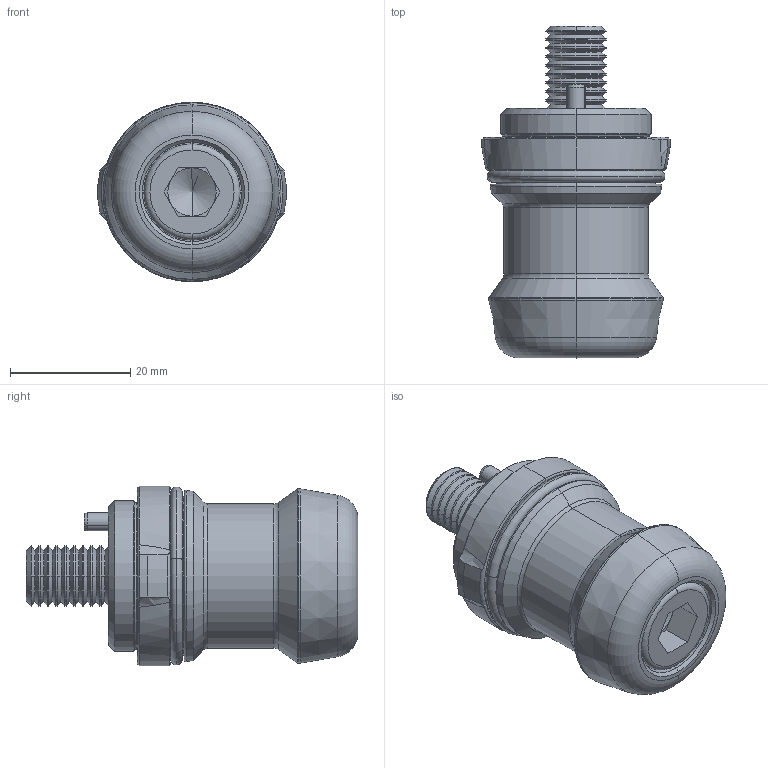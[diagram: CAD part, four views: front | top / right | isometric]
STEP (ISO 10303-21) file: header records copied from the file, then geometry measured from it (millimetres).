
FILE_DESCRIPTION (( 'STEP AP214' ), '1' );
FILE_NAME ('DXJT-20S.STEP', '2021-09-25T01:23:04', ( '' ), ( '' ), 'SwSTEP 2.0', 'SolidWorks 2018', '' );
FILE_SCHEMA (( 'AUTOMOTIVE_DESIGN' ));
Length unit declared in the file: millimetre
Products named in the file (5): socket head cap screw_din_DIN 912 M10 x 45 --- 32S; 12X2-NBR70-窪伎; parallel pin hardened_din_DIN EN 28734 - 3 x 10 - A - St; 隅砃嶺隊; DXJT-20S
Assembly tree (4 placements, depth 2):
  DXJT-20S
    隅砃嶺隊
    12X2-NBR70-窪伎
    parallel pin hardened_din_DIN EN 28734 - 3 x 10 - A - St
    socket head cap screw_din_DIN 912 M10 x 45 --- 32S
Bounding box: 31.31 x 55.2 x 29.9 mm (x, y, z)
Volume: 22486.7 mm3; surface area: 9970.9 mm2
Topology: 4 solids, 4 shells, 415 faces, 1055 edges, 661 vertices
Faces by surface type: cone 125, plane 115, bspline 74, cylinder 73, torus 28
Entity records: 17189 total; most frequent: CARTESIAN_POINT 6534, ORIENTED_EDGE 2102, DIRECTION 1956, EDGE_CURVE 1051, AXIS2_PLACEMENT_3D 725, VERTEX_POINT 661, VECTOR 506, LINE 506
